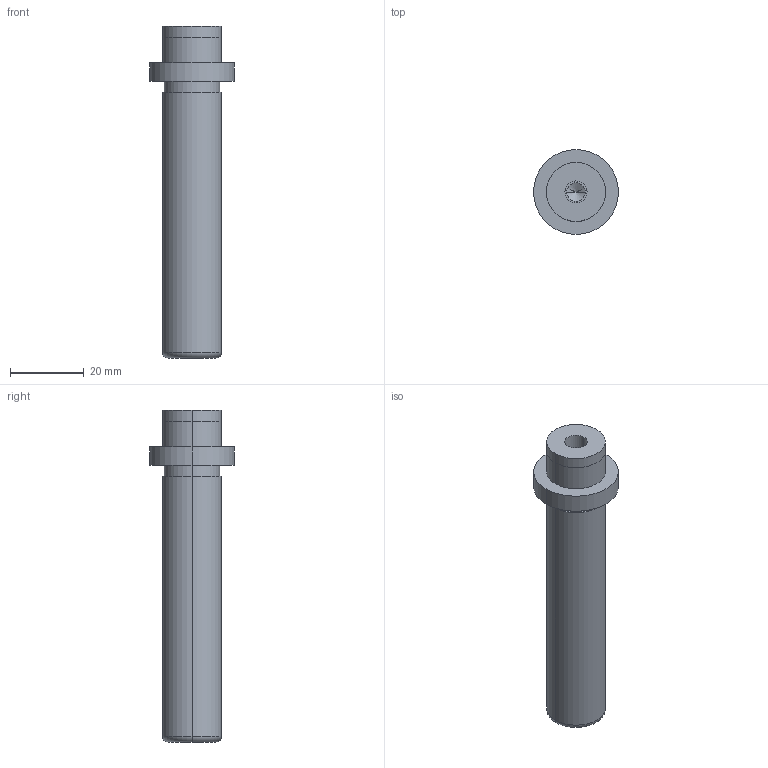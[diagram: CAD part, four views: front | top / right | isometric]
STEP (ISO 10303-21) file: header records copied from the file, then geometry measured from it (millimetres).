
FILE_DESCRIPTION(/* description */ (''),/* implementation_level */ '2;1');
FILE_NAME(/* name */ '3d_sgpw16-80_05281_r00.stp',/* time_stamp */ '2011-01-10T14:11:04+09:00',/* author */ ('MISUMI'),/* organization */ (''),/* preprocessor_version */ 'ST-DEVELOPER v11',/* originating_system */ 'UGS - NX 5.0',/* authorisation */ '');
FILE_SCHEMA (('CONFIG_CONTROL_DESIGN'));
Length unit declared in the file: millimetre
Products named in the file (1): 3d_sgpw16-80_05281_r00
Bounding box: 23 x 23 x 90 mm (x, y, z)
Volume: 18267.1 mm3; surface area: 6010.9 mm2
Topology: 1 solids, 1 shells, 31 faces, 64 edges, 38 vertices
Faces by surface type: cylinder 18, plane 7, cone 4, torus 2
Entity records: 890 total; most frequent: DIRECTION 162, CARTESIAN_POINT 130, ORIENTED_EDGE 120, AXIS2_PLACEMENT_3D 70, EDGE_CURVE 60, EDGE_LOOP 38, CIRCLE 38, VERTEX_POINT 38
